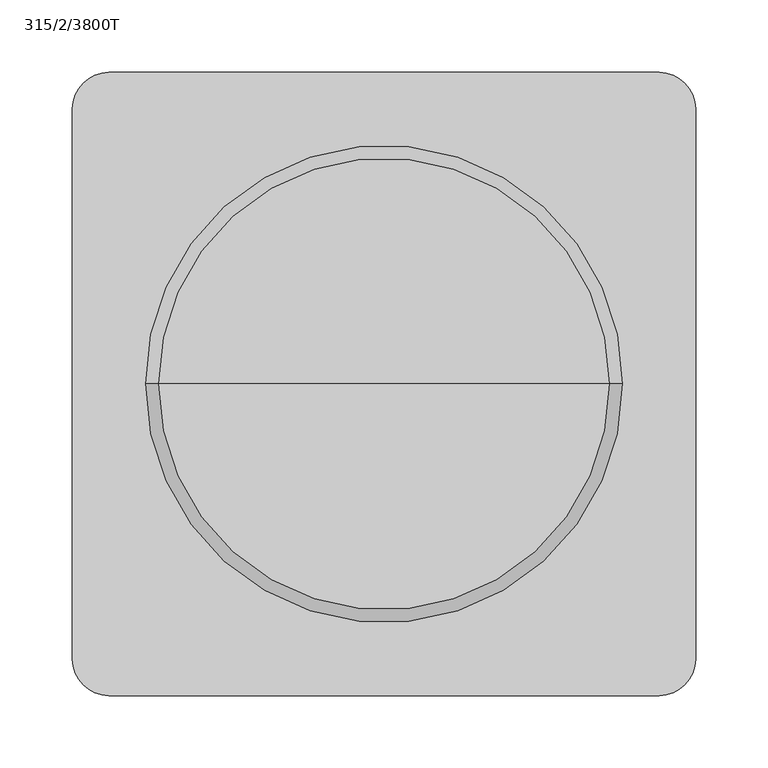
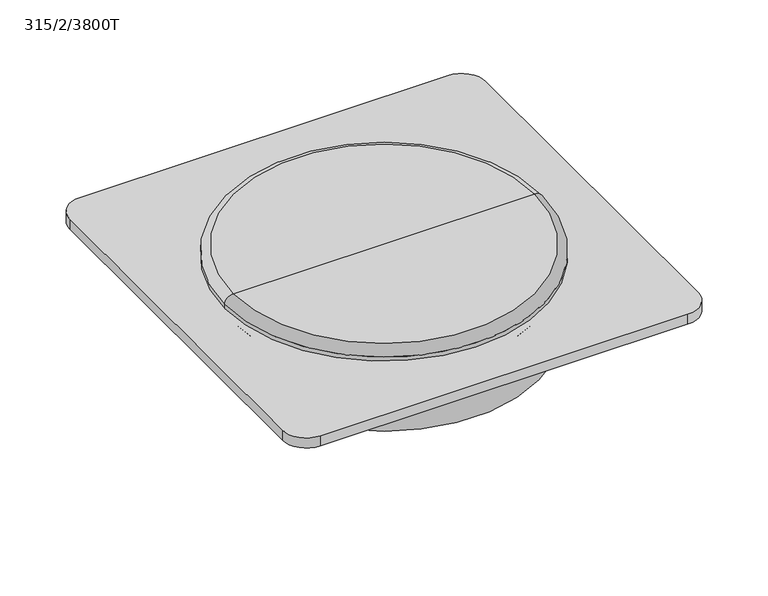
"""IFC4 building model written with IfcOpenShell, lengths in millimetres: unitary equipment geometry, VE-Wentylator-ParaForma-Harmann-WAF-Wywiewny : 315/2/3800T."""

from ifc_helpers import new_model, si_unit, point, frame, frame_2d, origin, origin_with_axes, origin_2d, place, context, project, spatial, polyline, circle_curve, ellipse_curve, trimmed, segment, composite_curve, outline, extrude, source, transform, mapped, element, save
from ifc_brep_helpers import plane_surface, cylinder_surface, revolved_surface, advanced_brep


def unitary_equipment_315_2_3800t_c642afdd(model_context):
    return source(origin(), model_context, "Body", "SolidModel", [
        advanced_brep(
        [(164.5, 0.0, 11.0), (-164.5, 0.0, 11.0), (0.0, 0.0, 11.0), (164.5, 0.0, 15.3333333), (-164.5, 0.0, 15.3333333), (155.8333333, 0.0, 24.0), (-155.8333333, 0.0, 24.0), (0.0, 0.0, 24.0)],
        [
            (0, 1, circle_curve(frame((0.0, 0.0, 11.0), z_axis=(0.0, 0.0, -1.0), x_axis=(-1.0000000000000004, 0.0, 0.0)), 164.5)),
            (1, 2),
            (2, 0),
            (1, 0, circle_curve(frame((0.0, 0.0, 11.0), z_axis=(0.0, 0.0, -1.0), x_axis=(-1.0000000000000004, 0.0, 0.0)), 164.5)),
            (3, 4, circle_curve(frame((0.0, 0.0, 15.3333333), z_axis=(0.0, 0.0, -1.0), x_axis=(-1.0000000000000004, 0.0, 0.0)), 164.5)),
            (4, 1),
            (0, 3),
            (4, 3, circle_curve(frame((0.0, 0.0, 15.3333333), z_axis=(0.0, 0.0, -1.0), x_axis=(-1.0000000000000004, 0.0, 0.0)), 164.5)),
            (5, 6, circle_curve(frame((0.0, 0.0, 24.0), z_axis=(0.0, 0.0, -1.0), x_axis=(-1.0000000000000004, 0.0, 0.0)), 155.8333333)),
            (6, 4, circle_curve(frame((-155.8333333, 0.0, 15.3333333), z_axis=(0.0, -1.0000000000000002, 0.0), x_axis=(0.0, 0.0, -1.0000000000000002)), 8.6666667)),
            (3, 5, circle_curve(frame((155.8333333, 0.0, 15.3333333), z_axis=(0.0, -1.0000000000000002, 0.0), x_axis=(0.0, 0.0, -1.0000000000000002)), 8.6666667)),
            (6, 5, circle_curve(frame((0.0, 0.0, 24.0), z_axis=(0.0, 0.0, -1.0), x_axis=(-1.0000000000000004, 0.0, 0.0)), 155.8333333)),
            (7, 6),
            (5, 7),
        ],
        [
            plane_surface(frame((0.0, 0.0, 11.0), z_axis=(0.0, 0.0, -1.0), x_axis=(-1.0, 0.0, 0.0))),
            cylinder_surface(frame((0.0, 0.0, 24.0), z_axis=(0.0, 0.0, 1.0000000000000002), x_axis=(-1.0000000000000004, 0.0, 0.0)), 164.5),
            revolved_surface(trimmed(ellipse_curve(frame((-155.8333333, 0.0, 15.3333333), z_axis=(0.0, 1.0000000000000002, 0.0), x_axis=(0.0, 0.0, -1.0000000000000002)), 8.6666667, 8.6666667), [point((-164.5, 0.0, 15.3333333))], [point((-155.8333333, 0.0, 24.0))], True, "CARTESIAN"), (0.0, 0.0, 24.0), (0.0, 0.0, 1.0000000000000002)),
            plane_surface(frame((0.0, 0.0, 24.0), z_axis=(0.0, 0.0, 1.0), x_axis=(-1.0, 0.0, 0.0))),
        ],
        [
            (0, [[1, 2, 3]]),
            (0, [[4, -3, -2]]),
            (1, [[5, 6, -1, 7]]),
            (1, [[8, -7, -4, -6]]),
            (2, [[9, 10, -5, 11]]),
            (2, [[12, -11, -8, -10]]),
            (3, [[13, -9, 14]]),
            (3, [[-14, -12, -13]]),
        ],
    ),
        extrude(outline(composite_curve([segment(trimmed(circle_curve(origin_2d(), 49.35), [point((49.35, 0.0))], [point((-49.35, 0.0))], False, "CARTESIAN"), True, "CONTINUOUS"), segment(trimmed(circle_curve(origin_2d(), 49.35), [point((-49.35, 0.0))], [point((49.35, 0.0))], False, "CARTESIAN"), True, "CONTINUOUS")], self_intersect=False)), frame((0.0, 0.0, -94.0), z_axis=(0.0, 0.0, 1.0), x_axis=(1.0, 0.0, 0.0)), (0.0, 0.0, 1.0), 25.0),
        advanced_brep(
        [(0.0, 0.0, 0.0), (-164.5, 0.0, 0.0), (164.5, 0.0, 0.0), (160.0, 0.0, -69.0), (-160.0, 0.0, -69.0), (0.0, 0.0, -69.0), (160.0, 0.0, -4.5), (-160.0, 0.0, -4.5)],
        [
            (0, 1),
            (1, 2, circle_curve(frame((0.0, 0.0, 0.0), z_axis=(0.0, 0.0, 1.0), x_axis=(-1.0000000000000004, 0.0, 0.0)), 164.5)),
            (2, 0),
            (2, 1, circle_curve(frame((0.0, 0.0, 0.0), z_axis=(0.0, 0.0, 1.0), x_axis=(-1.0000000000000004, 0.0, 0.0)), 164.5)),
            (3, 4, circle_curve(frame((0.0, 0.0, -69.0), z_axis=(0.0, 0.0, -1.0), x_axis=(-1.0000000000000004, 0.0, 0.0)), 160.0)),
            (4, 5),
            (5, 3),
            (4, 3, circle_curve(frame((0.0, 0.0, -69.0), z_axis=(0.0, 0.0, -1.0), x_axis=(-1.0000000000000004, 0.0, 0.0)), 160.0)),
            (6, 7, circle_curve(frame((0.0, 0.0, -4.5), z_axis=(0.0, 0.0, -1.0), x_axis=(-1.0000000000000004, 0.0, 0.0)), 160.0)),
            (7, 4),
            (3, 6),
            (7, 6, circle_curve(frame((0.0, 0.0, -4.5), z_axis=(0.0, 0.0, -1.0), x_axis=(-1.0000000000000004, 0.0, 0.0)), 160.0)),
            (1, 7, circle_curve(frame((-164.5, 0.0, -4.5), z_axis=(0.0, 1.0000000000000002, 0.0), x_axis=(0.0, 0.0, -1.0000000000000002)), 4.5)),
            (6, 2, circle_curve(frame((164.5, 0.0, -4.5), z_axis=(0.0, 1.0000000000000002, 0.0), x_axis=(0.0, 0.0, -1.0000000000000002)), 4.5)),
        ],
        [
            plane_surface(frame((0.0, 0.0, 0.0), z_axis=(0.0, 0.0, 1.0), x_axis=(-1.0, 0.0, 0.0))),
            plane_surface(frame((0.0, 0.0, -69.0), z_axis=(0.0, 0.0, -1.0), x_axis=(-1.0, 0.0, 0.0))),
            cylinder_surface(frame((0.0, 0.0, 0.0), z_axis=(0.0, 0.0, 1.0000000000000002), x_axis=(-1.0000000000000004, 0.0, 0.0)), 160.0),
            revolved_surface(trimmed(ellipse_curve(frame((-164.5, 0.0, -4.5), z_axis=(0.0, -1.0000000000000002, 0.0), x_axis=(0.0, 0.0, -1.0000000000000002)), 4.5, 4.5), [point((-160.0, 0.0, -4.5))], [point((-164.5, 0.0, 0.0))], True, "CARTESIAN"), (0.0, 0.0, 0.0), (0.0, 0.0, 1.0000000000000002)),
        ],
        [
            (0, [[1, 2, 3]]),
            (0, [[-3, 4, -1]]),
            (1, [[5, 6, 7]]),
            (1, [[8, -7, -6]]),
            (2, [[9, 10, -5, 11]]),
            (2, [[12, -11, -8, -10]]),
            (3, [[-2, 13, -9, 14]]),
            (3, [[-4, -14, -12, -13]]),
        ],
    ),
        extrude(outline(composite_curve([segment(polyline([(190.0, -215.0), (-190.0, -215.0)]), True, "CONTINUOUS"), segment(trimmed(circle_curve(frame_2d((-190.0, -190.0)), 25.0), [point((-190.0, -215.0))], [point((-215.0, -190.0))], False, "CARTESIAN"), True, "CONTINUOUS"), segment(polyline([(-215.0, -190.0), (-215.0, 190.0)]), True, "CONTINUOUS"), segment(trimmed(circle_curve(frame_2d((-190.0, 190.0)), 25.0), [point((-215.0, 190.0))], [point((-190.0, 215.0))], False, "CARTESIAN"), True, "CONTINUOUS"), segment(polyline([(-190.0, 215.0), (190.0, 215.0)]), True, "CONTINUOUS"), segment(trimmed(circle_curve(frame_2d((190.0, 190.0)), 25.0), [point((190.0, 215.0))], [point((215.0, 190.0))], False, "CARTESIAN"), True, "CONTINUOUS"), segment(polyline([(215.0, 190.0), (215.0, -190.0)]), True, "CONTINUOUS"), segment(trimmed(circle_curve(frame_2d((190.0, -190.0)), 25.0), [point((215.0, -190.0))], [point((190.0, -215.0))], False, "CARTESIAN"), True, "CONTINUOUS")], self_intersect=False)), origin_with_axes(), (0.0, 0.0, 1.0), 11.0),
    ])


if __name__ == "__main__":
    model = new_model("IFC4")
    model_context = context("Model", 3, world=origin())
    ifc_project = project(units=[si_unit("LENGTHUNIT", "METRE", prefix="MILLI")], contexts=[model_context])
    site = spatial("IfcSite", under=ifc_project)
    building = spatial("IfcBuilding", under=site)
    placement = place(None, origin())
    unitary_equipment_315_2_3800t_shape = unitary_equipment_315_2_3800t_c642afdd(model_context)
    element("IfcUnitaryEquipment", 1, ObjectType="VE-Wentylator-ParaForma-Harmann-WAF-Wywiewny : 315/2/3800T", at=placement, inside=building, context=model_context, shape_type="MappedRepresentation", body=[
        mapped(unitary_equipment_315_2_3800t_shape, transform((0.0, 0.0, 0.0), x_axis=(1.0, 0.0, 0.0), y_axis=(0.0, 1.0, 0.0), z_axis=(0.0, 0.0, 1.0))),
    ])
    save(model, "model.ifc")
